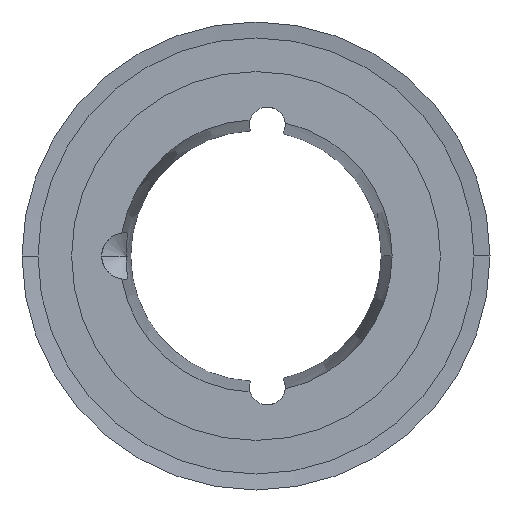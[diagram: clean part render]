
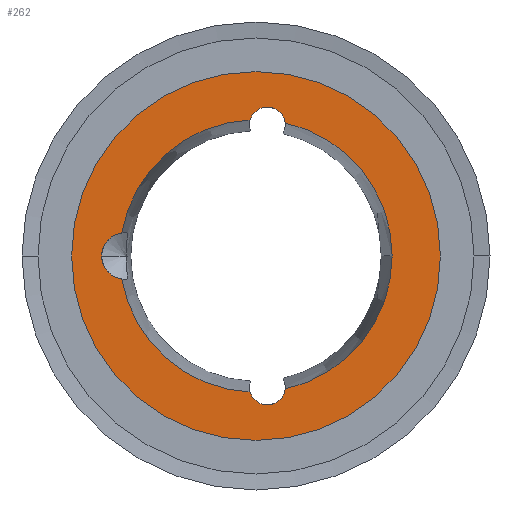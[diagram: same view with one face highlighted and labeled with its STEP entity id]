
A CAD part, left-side view. The second image highlights one B-rep face of the part: STEP entity #262.
In plain terms, the highlighted planar face has unit normal (-1, 0, 0).
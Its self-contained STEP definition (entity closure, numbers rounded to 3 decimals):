
#262 = ADVANCED_FACE( '', ( #643, #644 ), #645, .T. );
#643 = FACE_BOUND( '', #1025, .T. );
#644 = FACE_OUTER_BOUND( '', #1026, .T. );
#645 = PLANE( '', #1027 );
#1025 = EDGE_LOOP( '', ( #2645, #2646, #2647, #2648, #2649, #2650, #2651, #2652 ) );
#1026 = EDGE_LOOP( '', ( #2653, #2654 ) );
#1027 = AXIS2_PLACEMENT_3D( '', #2655, #2656, #2657 );
#2645 = ORIENTED_EDGE( '', *, *, #2735, .T. );
#2646 = ORIENTED_EDGE( '', *, *, #2726, .F. );
#2647 = ORIENTED_EDGE( '', *, *, #2742, .F. );
#2648 = ORIENTED_EDGE( '', *, *, #2716, .T. );
#2649 = ORIENTED_EDGE( '', *, *, #2743, .F. );
#2650 = ORIENTED_EDGE( '', *, *, #2706, .T. );
#2651 = ORIENTED_EDGE( '', *, *, #2746, .T. );
#2652 = ORIENTED_EDGE( '', *, *, #2722, .F. );
#2653 = ORIENTED_EDGE( '', *, *, #2661, .T. );
#2654 = ORIENTED_EDGE( '', *, *, #3190, .T. );
#2655 = CARTESIAN_POINT( '', ( 0., 22.6, 0. ) );
#2656 = DIRECTION( '', ( -1., 0., 0. ) );
#2657 = DIRECTION( '', ( 0., 1., 0. ) );
#2661 = EDGE_CURVE( '', #3192, #3196, #3198, .T. );
#2706 = EDGE_CURVE( '', #3280, #3278, #3281, .T. );
#2716 = EDGE_CURVE( '', #3297, #3295, #3298, .T. );
#2722 = EDGE_CURVE( '', #3306, #3308, #3309, .T. );
#2726 = EDGE_CURVE( '', #3313, #3316, #3317, .T. );
#2735 = EDGE_CURVE( '', #3306, #3316, #3330, .T. );
#2742 = EDGE_CURVE( '', #3297, #3313, #3338, .T. );
#2743 = EDGE_CURVE( '', #3280, #3295, #3339, .T. );
#2746 = EDGE_CURVE( '', #3278, #3308, #3342, .T. );
#3190 = EDGE_CURVE( '', #3196, #3192, #4074, .T. );
#3192 = VERTEX_POINT( '', #4076 );
#3196 = VERTEX_POINT( '', #4081 );
#3198 = CIRCLE( '', #4084, 26. );
#3278 = VERTEX_POINT( '', #4207 );
#3280 = VERTEX_POINT( '', #4210 );
#3281 = CIRCLE( '', #4211, 3.3 );
#3295 = VERTEX_POINT( '', #4241 );
#3297 = VERTEX_POINT( '', #4252 );
#3298 = CIRCLE( '', #4253, 2.55 );
#3306 = VERTEX_POINT( '', #4280 );
#3308 = VERTEX_POINT( '', #4291 );
#3309 = CIRCLE( '', #4292, 19.2 );
#3313 = VERTEX_POINT( '', #4326 );
#3316 = VERTEX_POINT( '', #4330 );
#3317 = CIRCLE( '', #4331, 19.2 );
#3330 = CIRCLE( '', #4364, 2.55 );
#3338 = CIRCLE( '', #4381, 19.2 );
#3339 = CIRCLE( '', #4382, 19.2 );
#3342 = CIRCLE( '', #4385, 3.3 );
#4074 = CIRCLE( '', #5357, 26. );
#4076 = CARTESIAN_POINT( '', ( 0., 26., 0. ) );
#4081 = CARTESIAN_POINT( '', ( 0., -26., 0. ) );
#4084 = AXIS2_PLACEMENT_3D( '', #5363, #5364, #5365 );
#4207 = CARTESIAN_POINT( '', ( 0., 21.76, 0. ) );
#4210 = CARTESIAN_POINT( '', ( 0., 18.92, -3.268 ) );
#4211 = AXIS2_PLACEMENT_3D( '', #5457, #5458, #5459 );
#4241 = CARTESIAN_POINT( '', ( 0., 0.837, -19.182 ) );
#4252 = CARTESIAN_POINT( '', ( 0., -4.143, -18.748 ) );
#4253 = AXIS2_PLACEMENT_3D( '', #5474, #5475, #5476 );
#4280 = CARTESIAN_POINT( '', ( 0., 0.837, 19.182 ) );
#4291 = CARTESIAN_POINT( '', ( 0., 18.92, 3.268 ) );
#4292 = AXIS2_PLACEMENT_3D( '', #5481, #5482, #5483 );
#4326 = CARTESIAN_POINT( '', ( 0., -19.2, 0. ) );
#4330 = CARTESIAN_POINT( '', ( 0., -4.143, 18.748 ) );
#4331 = AXIS2_PLACEMENT_3D( '', #5485, #5486, #5487 );
#4364 = AXIS2_PLACEMENT_3D( '', #5502, #5503, #5504 );
#4381 = AXIS2_PLACEMENT_3D( '', #5520, #5521, #5522 );
#4382 = AXIS2_PLACEMENT_3D( '', #5523, #5524, #5525 );
#4385 = AXIS2_PLACEMENT_3D( '', #5532, #5533, #5534 );
#5357 = AXIS2_PLACEMENT_3D( '', #6384, #6385, #6386 );
#5363 = CARTESIAN_POINT( '', ( 0., 0., 0. ) );
#5364 = DIRECTION( '', ( -1., 0., 0. ) );
#5365 = DIRECTION( '', ( 0., 1., 0. ) );
#5457 = CARTESIAN_POINT( '', ( 0., 18.46, 0. ) );
#5458 = DIRECTION( '', ( 1., 0., 0. ) );
#5459 = DIRECTION( '', ( 0., 1., 0. ) );
#5474 = CARTESIAN_POINT( '', ( 0., -1.609, -18.46 ) );
#5475 = DIRECTION( '', ( 1., 0., 0. ) );
#5476 = DIRECTION( '', ( 0., -1., 0. ) );
#5481 = CARTESIAN_POINT( '', ( 0., 0., 0. ) );
#5482 = DIRECTION( '', ( -1., 0., 0. ) );
#5483 = DIRECTION( '', ( 0., 1., 0. ) );
#5485 = CARTESIAN_POINT( '', ( 0., 0., 0. ) );
#5486 = DIRECTION( '', ( -1., 0., 0. ) );
#5487 = DIRECTION( '', ( 0., 1., 0. ) );
#5502 = CARTESIAN_POINT( '', ( 0., -1.609, 18.46 ) );
#5503 = DIRECTION( '', ( 1., 0., 0. ) );
#5504 = DIRECTION( '', ( 0., -1., 0. ) );
#5520 = CARTESIAN_POINT( '', ( 0., 0., 0. ) );
#5521 = DIRECTION( '', ( -1., 0., 0. ) );
#5522 = DIRECTION( '', ( 0., 1., 0. ) );
#5523 = CARTESIAN_POINT( '', ( 0., 0., 0. ) );
#5524 = DIRECTION( '', ( -1., 0., 0. ) );
#5525 = DIRECTION( '', ( 0., 1., 0. ) );
#5532 = CARTESIAN_POINT( '', ( 0., 18.46, 0. ) );
#5533 = DIRECTION( '', ( 1., 0., 0. ) );
#5534 = DIRECTION( '', ( 0., 1., 0. ) );
#6384 = CARTESIAN_POINT( '', ( 0., 0., 0. ) );
#6385 = DIRECTION( '', ( -1., 0., 0. ) );
#6386 = DIRECTION( '', ( 0., 1., 0. ) );
